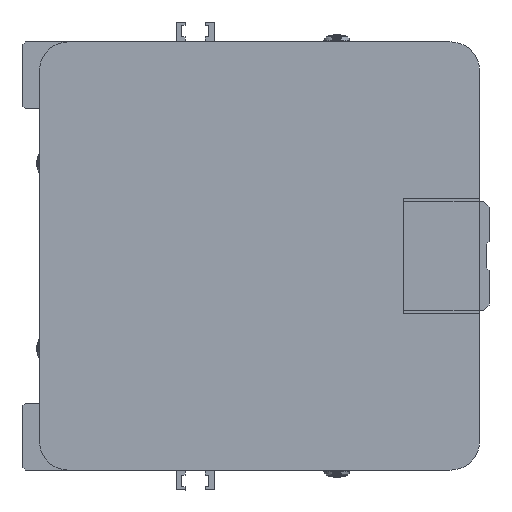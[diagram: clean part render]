
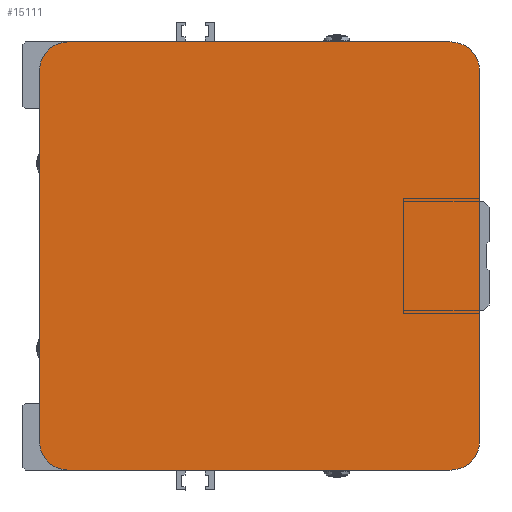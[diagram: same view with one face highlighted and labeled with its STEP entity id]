
A CAD part, left-side view. The second image highlights one B-rep face of the part: STEP entity #15111.
In plain terms, the highlighted planar face has unit normal (-1, 0, 0) as drawn and (0, 0, -1) by its records, which use the part's own axes.
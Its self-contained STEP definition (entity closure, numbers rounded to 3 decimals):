
#1207=CIRCLE('',#16119,6.);
#1209=CIRCLE('',#16124,6.);
#1210=CIRCLE('',#16130,6.);
#1211=CIRCLE('',#16132,6.);
#2118=FACE_OUTER_BOUND('',#3020,.T.);
#3020=EDGE_LOOP('',(#10578,#10579,#10580,#10581,#10582,#10583,#10584,#10585));
#4161=LINE('',#21686,#5406);
#4179=LINE('',#21725,#5424);
#4183=LINE('',#21737,#5428);
#4185=LINE('',#21744,#5430);
#5406=VECTOR('',#17731,78.);
#5424=VECTOR('',#17765,80.5);
#5428=VECTOR('',#17779,80.5);
#5430=VECTOR('',#17787,78.);
#6652=VERTEX_POINT('',#21680);
#6653=VERTEX_POINT('',#21684);
#6665=VERTEX_POINT('',#21722);
#6666=VERTEX_POINT('',#21724);
#6668=VERTEX_POINT('',#21733);
#6669=VERTEX_POINT('',#21735);
#6670=VERTEX_POINT('',#21739);
#6671=VERTEX_POINT('',#21743);
#8196=EDGE_CURVE('',#6653,#6652,#4161,.T.);
#8216=EDGE_CURVE('',#6665,#6666,#4179,.T.);
#8218=EDGE_CURVE('',#6666,#6653,#1207,.T.);
#8222=EDGE_CURVE('',#6669,#6668,#4183,.T.);
#8223=EDGE_CURVE('',#6668,#6670,#1209,.T.);
#8225=EDGE_CURVE('',#6670,#6671,#4185,.T.);
#8241=EDGE_CURVE('',#6671,#6665,#1210,.T.);
#8242=EDGE_CURVE('',#6652,#6669,#1211,.T.);
#10578=ORIENTED_EDGE('',*,*,#8223,.F.);
#10579=ORIENTED_EDGE('',*,*,#8222,.F.);
#10580=ORIENTED_EDGE('',*,*,#8242,.F.);
#10581=ORIENTED_EDGE('',*,*,#8196,.F.);
#10582=ORIENTED_EDGE('',*,*,#8218,.F.);
#10583=ORIENTED_EDGE('',*,*,#8216,.F.);
#10584=ORIENTED_EDGE('',*,*,#8241,.F.);
#10585=ORIENTED_EDGE('',*,*,#8225,.F.);
#14580=PLANE('',#16143);
#15111=ADVANCED_FACE('',(#2118),#14580,.T.);
#16119=AXIS2_PLACEMENT_3D('',#21728,#17769,#17770);
#16124=AXIS2_PLACEMENT_3D('',#21740,#17782,#17783);
#16130=AXIS2_PLACEMENT_3D('',#21772,#17811,#17812);
#16132=AXIS2_PLACEMENT_3D('',#21774,#17815,#17816);
#16143=AXIS2_PLACEMENT_3D('',#21793,#17842,#17843);
#17731=DIRECTION('',(1.,0.,0.));
#17765=DIRECTION('',(0.,-1.,0.));
#17769=DIRECTION('center_axis',(0.,0.,
1.));
#17770=DIRECTION('ref_axis',(-1.,0.,0.));
#17779=DIRECTION('',(0.,1.,0.));
#17782=DIRECTION('center_axis',(0.,0.,
1.));
#17783=DIRECTION('ref_axis',(1.,0.,0.));
#17787=DIRECTION('',(-1.,0.,0.));
#17811=DIRECTION('center_axis',(0.,0.,
1.));
#17812=DIRECTION('ref_axis',(0.,1.,0.));
#17815=DIRECTION('center_axis',(0.,0.,
1.));
#17816=DIRECTION('ref_axis',(0.,-1.,0.));
#17842=DIRECTION('center_axis',(0.,0.,
-1.));
#17843=DIRECTION('ref_axis',(0.545,-0.839,0.));
#21680=CARTESIAN_POINT('',(88.204,2.,-786.));
#21684=CARTESIAN_POINT('',(10.204,2.,-786.));
#21686=CARTESIAN_POINT('',(10.204,2.,-786.));
#21722=CARTESIAN_POINT('',(4.204,88.5,-786.));
#21724=CARTESIAN_POINT('',(4.204,8.,-786.));
#21725=CARTESIAN_POINT('',(4.204,88.5,-786.));
#21728=CARTESIAN_POINT('Origin',(10.204,8.,-786.));
#21733=CARTESIAN_POINT('',(94.204,88.5,-786.));
#21735=CARTESIAN_POINT('',(94.204,8.,-786.));
#21737=CARTESIAN_POINT('',(94.204,8.,-786.));
#21739=CARTESIAN_POINT('',(88.204,94.5,-786.));
#21740=CARTESIAN_POINT('Origin',(88.204,88.5,-786.));
#21743=CARTESIAN_POINT('',(10.204,94.5,-786.));
#21744=CARTESIAN_POINT('',(88.204,94.5,-786.));
#21772=CARTESIAN_POINT('Origin',(10.204,88.5,-786.));
#21774=CARTESIAN_POINT('Origin',(88.204,8.,-786.));
#21793=CARTESIAN_POINT('Origin',(49.204,26.,-786.));
